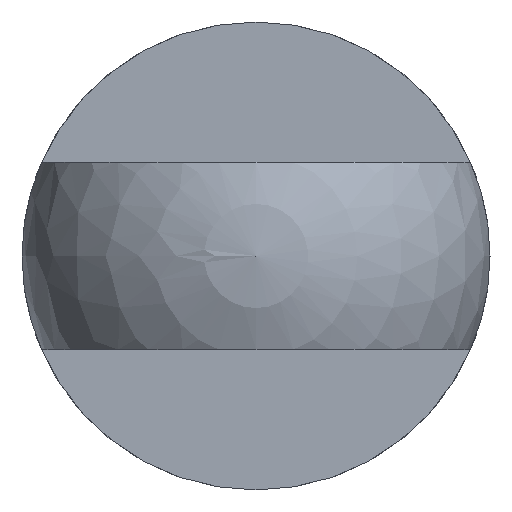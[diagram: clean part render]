
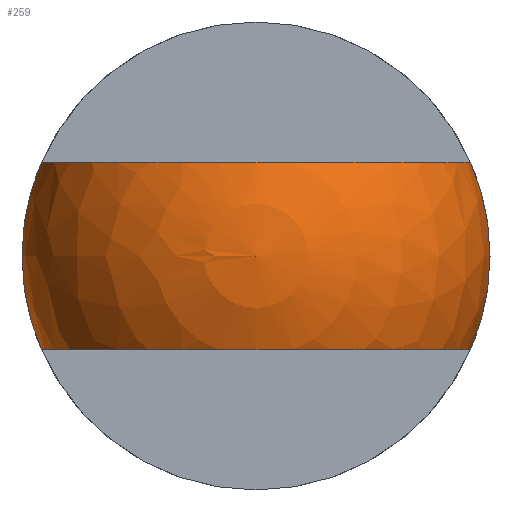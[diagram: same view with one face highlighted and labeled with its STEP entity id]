
A CAD part, left-side view. The second image highlights one B-rep face of the part: STEP entity #259.
In plain terms, the highlighted spherical face has radius 10 mm.
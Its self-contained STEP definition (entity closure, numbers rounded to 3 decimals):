
#17=SPHERICAL_SURFACE('',#312,10.);
#38=FACE_OUTER_BOUND('',#55,.T.);
#55=EDGE_LOOP('',(#216,#217,#218,#219,#220,#221,#222,#223));
#91=CIRCLE('',#296,9.165);
#93=CIRCLE('',#300,9.165);
#97=CIRCLE('',#307,10.);
#98=CIRCLE('',#308,10.);
#99=CIRCLE('',#309,10.);
#100=CIRCLE('',#310,10.);
#102=CIRCLE('',#313,10.);
#116=VERTEX_POINT('',#437);
#117=VERTEX_POINT('',#438);
#121=VERTEX_POINT('',#450);
#122=VERTEX_POINT('',#451);
#127=VERTEX_POINT('',#466);
#128=VERTEX_POINT('',#469);
#129=VERTEX_POINT('',#475);
#143=EDGE_CURVE('',#116,#117,#91,.T.);
#149=EDGE_CURVE('',#121,#122,#93,.T.);
#157=EDGE_CURVE('',#127,#117,#97,.T.);
#158=EDGE_CURVE('',#116,#128,#98,.T.);
#159=EDGE_CURVE('',#128,#122,#99,.T.);
#160=EDGE_CURVE('',#121,#127,#100,.T.);
#162=EDGE_CURVE('',#128,#129,#102,.T.);
#216=ORIENTED_EDGE('',*,*,#149,.T.);
#217=ORIENTED_EDGE('',*,*,#159,.F.);
#218=ORIENTED_EDGE('',*,*,#162,.T.);
#219=ORIENTED_EDGE('',*,*,#162,.F.);
#220=ORIENTED_EDGE('',*,*,#158,.F.);
#221=ORIENTED_EDGE('',*,*,#143,.T.);
#222=ORIENTED_EDGE('',*,*,#157,.F.);
#223=ORIENTED_EDGE('',*,*,#160,.F.);
#259=ADVANCED_FACE('',(#38),#17,.T.);
#296=AXIS2_PLACEMENT_3D('',#439,#347,#348);
#300=AXIS2_PLACEMENT_3D('',#452,#359,#360);
#307=AXIS2_PLACEMENT_3D('',#468,#377,#378);
#308=AXIS2_PLACEMENT_3D('',#470,#379,#380);
#309=AXIS2_PLACEMENT_3D('',#471,#381,#382);
#310=AXIS2_PLACEMENT_3D('',#472,#383,#384);
#312=AXIS2_PLACEMENT_3D('',#474,#387,#388);
#313=AXIS2_PLACEMENT_3D('',#476,#389,#390);
#347=DIRECTION('center_axis',(0.,0.,1.));
#348=DIRECTION('ref_axis',(0.,1.,0.));
#359=DIRECTION('center_axis',(0.,0.,-1.));
#360=DIRECTION('ref_axis',(0.,-1.,0.));
#377=DIRECTION('center_axis',(1.,0.,0.));
#378=DIRECTION('ref_axis',(0.,0.,-1.));
#379=DIRECTION('center_axis',(1.,0.,0.));
#380=DIRECTION('ref_axis',(0.,0.,-1.));
#381=DIRECTION('center_axis',(1.,0.,0.));
#382=DIRECTION('ref_axis',(0.,0.,-1.));
#383=DIRECTION('center_axis',(1.,0.,0.));
#384=DIRECTION('ref_axis',(0.,0.,-1.));
#387=DIRECTION('center_axis',(1.,0.,0.));
#388=DIRECTION('ref_axis',(0.,-1.,0.));
#389=DIRECTION('center_axis',(0.,0.,1.));
#390=DIRECTION('ref_axis',(0.,1.,0.));
#437=CARTESIAN_POINT('',(10.,9.165,-4.));
#438=CARTESIAN_POINT('',(10.,-9.165,-4.));
#439=CARTESIAN_POINT('Origin',(10.,0.,-4.));
#450=CARTESIAN_POINT('',(10.,-9.165,4.));
#451=CARTESIAN_POINT('',(10.,9.165,4.));
#452=CARTESIAN_POINT('Origin',(10.,0.,4.));
#466=CARTESIAN_POINT('',(10.,-10.,0.));
#468=CARTESIAN_POINT('Origin',(10.,0.,0.));
#469=CARTESIAN_POINT('',(10.,10.,0.));
#470=CARTESIAN_POINT('Origin',(10.,0.,0.));
#471=CARTESIAN_POINT('Origin',(10.,0.,0.));
#472=CARTESIAN_POINT('Origin',(10.,0.,0.));
#474=CARTESIAN_POINT('Origin',(10.,0.,0.));
#475=CARTESIAN_POINT('',(0.,0.,0.));
#476=CARTESIAN_POINT('Origin',(10.,0.,0.));
